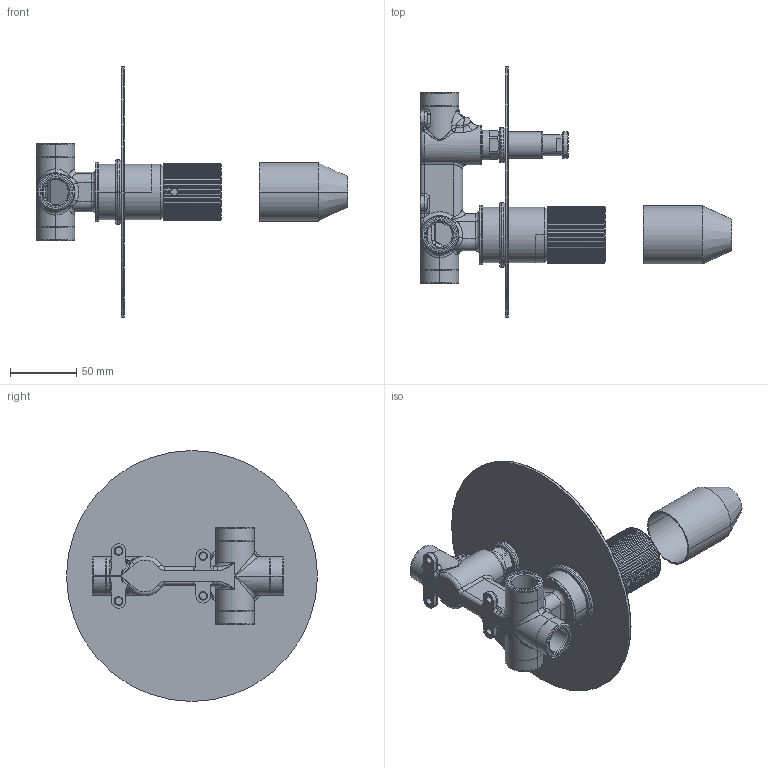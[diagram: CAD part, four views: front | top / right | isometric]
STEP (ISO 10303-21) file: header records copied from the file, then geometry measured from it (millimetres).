
FILE_DESCRIPTION((''),'2;1');
FILE_NAME('156813600_ASM','2022-08-25T17:00:06',('tec11'),(''),'CREO PARAMETRIC BY PTC INC, 2018260','CREO PARAMETRIC BY PTC INC, 2018260','');
FILE_SCHEMA(('CONFIG_CONTROL_DESIGN'));
Products named in the file (25): 201610150102; 206093380102; 204010509901; 205021070102; 206093490126; 205055110126; 208001960601; 207040640701; 202011070126; 205011481601; 202030450616; 209030950126; 209021199901-1; 209021199901-2; 209021199901_ASM; 207030430601; 207040750601; 206080491601; 209010750126; 208000460601; 208000230601; 206023921626; 208002360601; 207030700601; 156813600_ASM
Assembly tree (24 placements, depth 3):
  156813600_ASM
    201610150102
    206093380102
    204010509901
    205021070102
    206093490126
    205055110126
    208001960601
    207040640701
    202011070126
    205011481601
    202030450616
    209030950126
    209021199901_ASM
      209021199901-1
      209021199901-2
    207030430601
    207040750601
    206080491601
    209010750126
    208000460601
    208000230601
    206023921626
    208002360601
    207030700601
Bounding box: 235.5 x 190 x 190 mm (x, y, z)
Volume: 243852.4 mm3; surface area: 358793.8 mm2
Topology: 23 solids, 58 shells, 2410 faces, 5716 edges, 3398 vertices
Faces by surface type: cylinder 865, bspline 626, plane 431, torus 283, cone 151, sphere 54
Entity records: 115250 total; most frequent: CARTESIAN_POINT 63000, ORIENTED_EDGE 11184, DIRECTION 10392, EDGE_CURVE 5704, AXIS2_PLACEMENT_3D 4371, VERTEX_POINT 3398, EDGE_LOOP 2548, CIRCLE 2514
